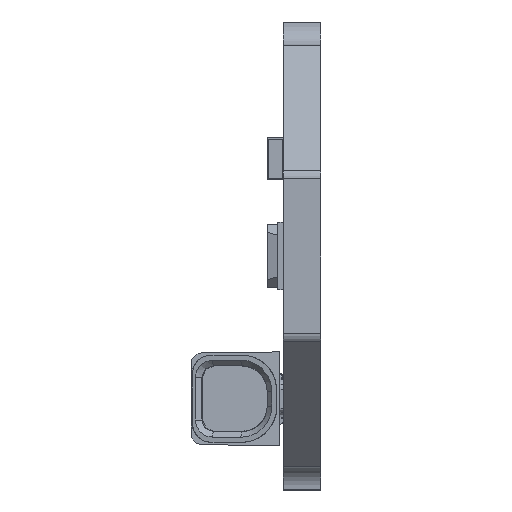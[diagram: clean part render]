
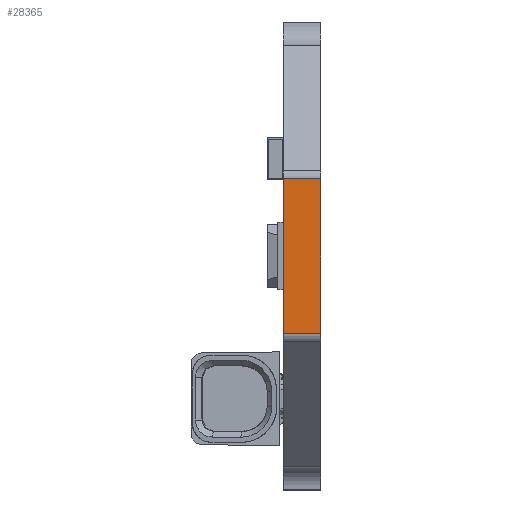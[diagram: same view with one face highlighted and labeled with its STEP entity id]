
A CAD part, left-side view. The second image highlights one B-rep face of the part: STEP entity #28365.
In plain terms, the highlighted planar face has unit normal (-1, 0, 0).
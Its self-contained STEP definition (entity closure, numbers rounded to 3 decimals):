
#1978 = ORIENTED_EDGE ( 'NONE', *, *, #9626, .T. ) ;
#2945 = DIRECTION ( 'NONE',  ( 0., -1., 0. ) ) ;
#3410 = EDGE_CURVE ( 'NONE', #5369, #39149, #8845, .T. ) ;
#5369 = VERTEX_POINT ( 'NONE', #32354 ) ;
#8043 = LINE ( 'NONE', #24749, #34222 ) ;
#8845 = LINE ( 'NONE', #43174, #34999 ) ;
#9626 = EDGE_CURVE ( 'NONE', #5369, #17532, #46497, .T. ) ;
#9734 = EDGE_CURVE ( 'NONE', #39149, #40438, #8043, .T. ) ;
#14052 = CARTESIAN_POINT ( 'NONE',  ( 0., 13.293, 1.6 ) ) ;
#17532 = VERTEX_POINT ( 'NONE', #45582 ) ;
#17802 = AXIS2_PLACEMENT_3D ( 'NONE', #43140, #53127, #23605 ) ;
#18651 = VECTOR ( 'NONE', #2945, 1000. ) ;
#18760 = DIRECTION ( 'NONE',  ( 0., -1., 0. ) ) ;
#23605 = DIRECTION ( 'NONE',  ( 0., 0., -1. ) ) ;
#24749 = CARTESIAN_POINT ( 'NONE',  ( 0., 6.707, 1.6 ) ) ;
#25233 = ORIENTED_EDGE ( 'NONE', *, *, #9734, .F. ) ;
#28365 = ADVANCED_FACE ( 'NONE', ( #53813 ), #38242, .F. ) ;
#32354 = CARTESIAN_POINT ( 'NONE',  ( 0., 13.293, 1.6 ) ) ;
#32371 = CARTESIAN_POINT ( 'NONE',  ( 0., 13.293, 0. ) ) ;
#33826 = CARTESIAN_POINT ( 'NONE',  ( 0., 6.707, 1.6 ) ) ;
#34222 = VECTOR ( 'NONE', #59185, 1000. ) ;
#34999 = VECTOR ( 'NONE', #18760, 1000. ) ;
#38242 = PLANE ( 'NONE',  #17802 ) ;
#39149 = VERTEX_POINT ( 'NONE', #33826 ) ;
#40438 = VERTEX_POINT ( 'NONE', #54988 ) ;
#42115 = ORIENTED_EDGE ( 'NONE', *, *, #54569, .T. ) ;
#43140 = CARTESIAN_POINT ( 'NONE',  ( 0., 13.293, 1.6 ) ) ;
#43174 = CARTESIAN_POINT ( 'NONE',  ( 0., 13.293, 1.6 ) ) ;
#45582 = CARTESIAN_POINT ( 'NONE',  ( 0., 13.293, 0. ) ) ;
#46497 = LINE ( 'NONE', #14052, #59657 ) ;
#48374 = DIRECTION ( 'NONE',  ( 0., 0., -1. ) ) ;
#52159 = EDGE_LOOP ( 'NONE', ( #42115, #25233, #58907, #1978 ) ) ;
#53127 = DIRECTION ( 'NONE',  ( 1., 0., 0. ) ) ;
#53813 = FACE_OUTER_BOUND ( 'NONE', #52159, .T. ) ;
#54569 = EDGE_CURVE ( 'NONE', #17532, #40438, #56314, .T. ) ;
#54988 = CARTESIAN_POINT ( 'NONE',  ( 0., 6.707, 0. ) ) ;
#56314 = LINE ( 'NONE', #32371, #18651 ) ;
#58907 = ORIENTED_EDGE ( 'NONE', *, *, #3410, .F. ) ;
#59185 = DIRECTION ( 'NONE',  ( 0., 0., -1. ) ) ;
#59657 = VECTOR ( 'NONE', #48374, 1000. ) ;
